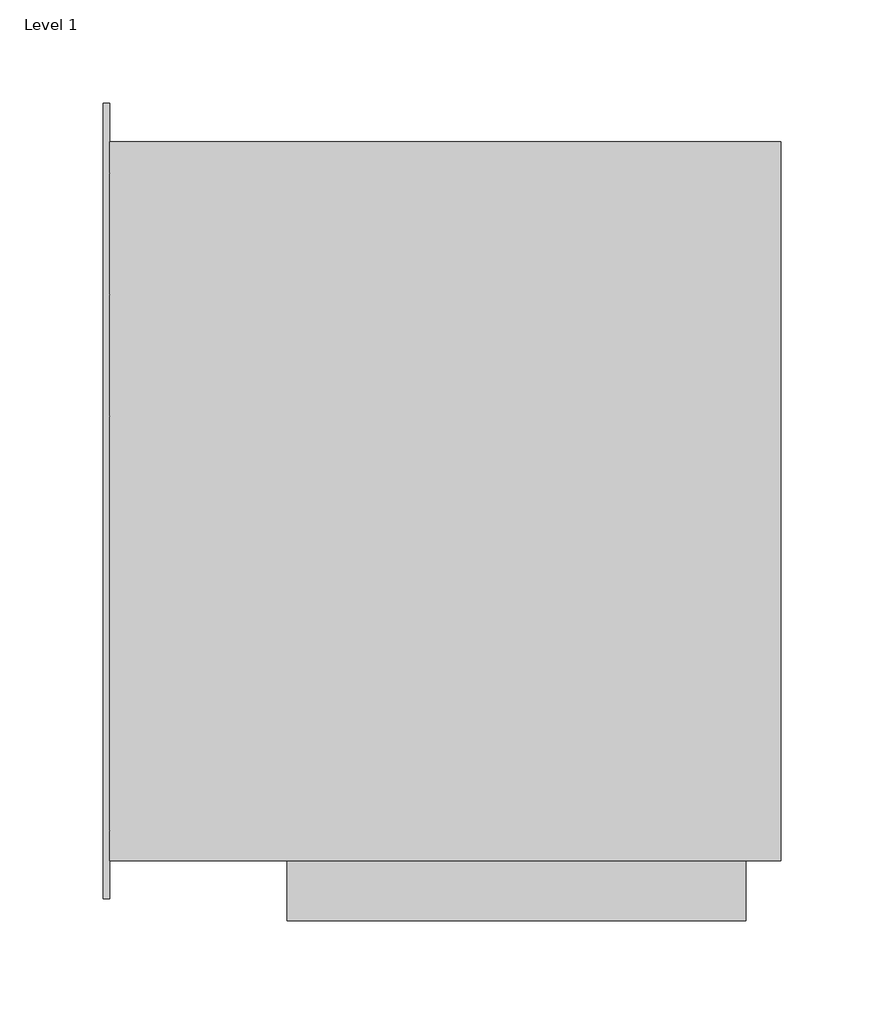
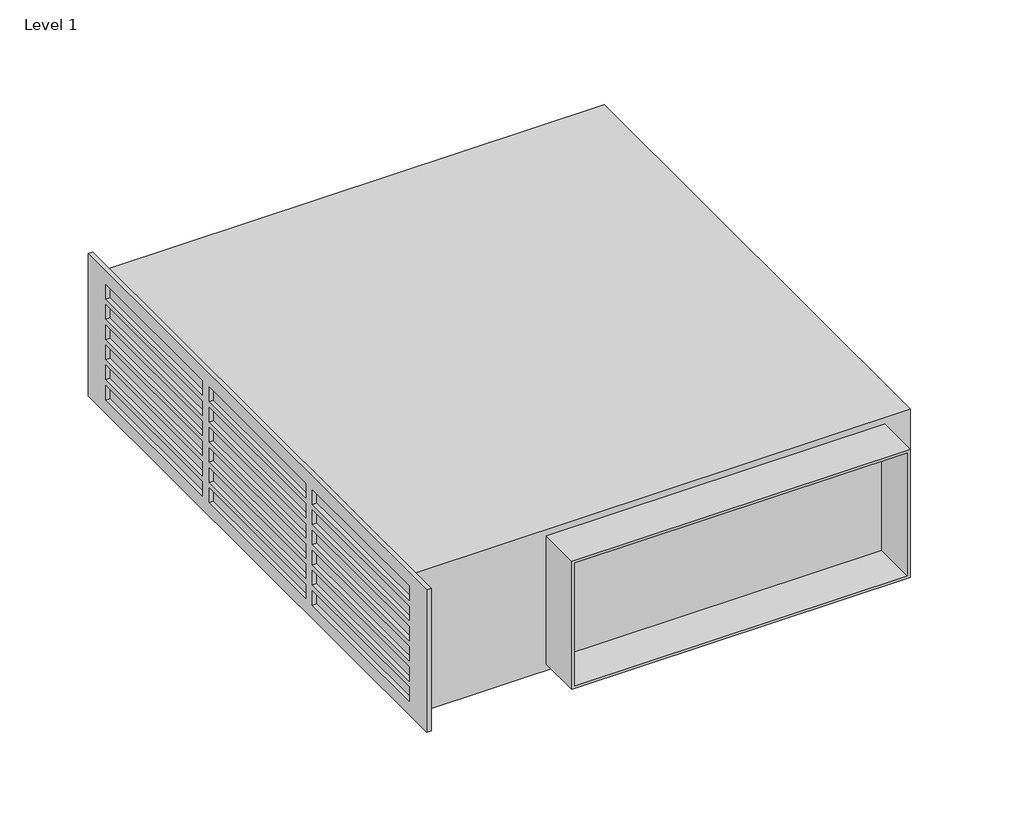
# One storey: 1 proxy.
"""IFC4 building model written with IfcOpenShell, lengths in millimetres."""

from ifc_helpers import new_model, si_unit, origin, place, context, project, spatial, transform, mapped, element, save
from components import specialty_equipment_690cc349

model = new_model("IFC4")

# Units and contexts
model_context = context("Model", 3, world=origin())
ifc_project = project(units=[si_unit("LENGTHUNIT", "METRE", prefix="MILLI")], contexts=[model_context])

# Site, building, storey
site = spatial("IfcSite", under=ifc_project)
building = spatial("IfcBuilding", under=site)
storey = spatial("IfcBuildingStorey", under=building, Name="Level 1", Elevation=0.0)

# Proxy
placement = place(None, origin())
specialty_equipment_shape = specialty_equipment_690cc349(model_context)
element("IfcBuildingElementProxy", 1, Name="11207310_D_DUU1000-2 : 28996403_D_11207310_DUU1000-2", ObjectType="11207310_D_DUU1000-2 : 28996403_D_11207310_DUU1000-2", at=placement, inside=storey, context=model_context, shape_type="MappedRepresentation", body=[
    mapped(specialty_equipment_shape, transform((0.0, 0.0, 0.0), x_axis=(1.0, 0.0, 0.0), y_axis=(0.0, 1.0, 0.0), z_axis=(0.0, 0.0, 1.0))),
])

save(model, "model.ifc")
